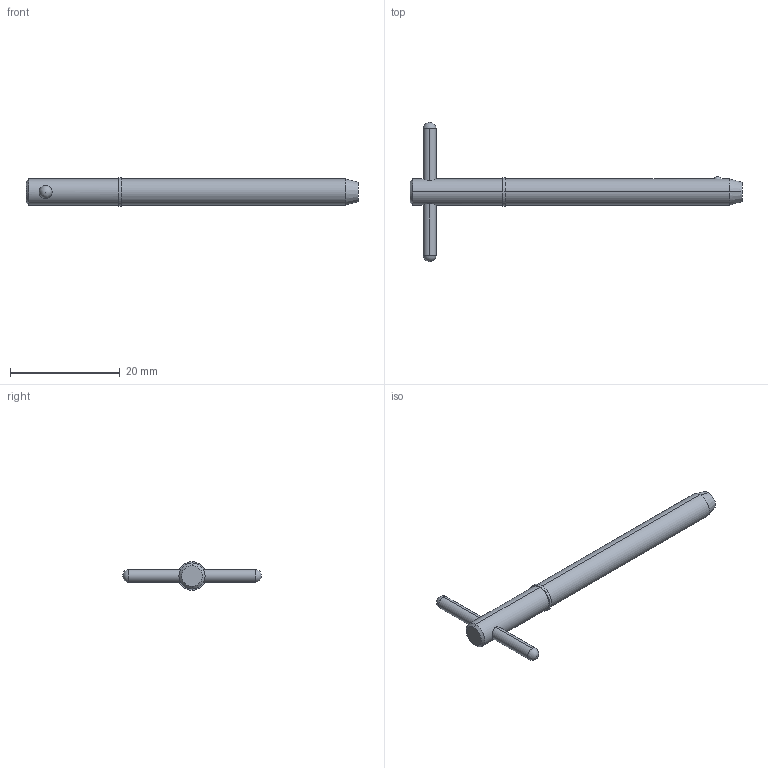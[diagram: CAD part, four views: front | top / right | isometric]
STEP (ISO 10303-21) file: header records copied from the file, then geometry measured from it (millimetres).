
FILE_DESCRIPTION (( 'STEP AP203' ), '1' );
FILE_NAME ('33018.W1815.step', '2024-11-19T17:06:55', ( '' ), ( '' ), 'SwSTEP 2.0', 'SolidWorks 2019', '' );
FILE_SCHEMA (( 'CONFIG_CONTROL_DESIGN' ));
Length unit declared in the file: millimetre
Products named in the file (3): Part2_33018.W1815; 33018.W1815; Part1_33018.W1815
Assembly tree (2 placements, depth 2):
  33018.W1815
    Part1_33018.W1815
    Part2_33018.W1815
Bounding box: 60.63 x 25.4 x 5.24 mm (x, y, z)
Volume: 1159.4 mm3; surface area: 1149.7 mm2
Topology: 2 solids, 2 shells, 22 faces, 47 edges, 30 vertices
Faces by surface type: cylinder 10, sphere 4, cone 4, plane 4
Entity records: 961 total; most frequent: CARTESIAN_POINT 204, DIRECTION 110, ORIENTED_EDGE 82, AXIS2_PLACEMENT_3D 48, EDGE_CURVE 41, EDGE_LOOP 27, PERSON_AND_ORGANIZATION 26, VERTEX_POINT 26
